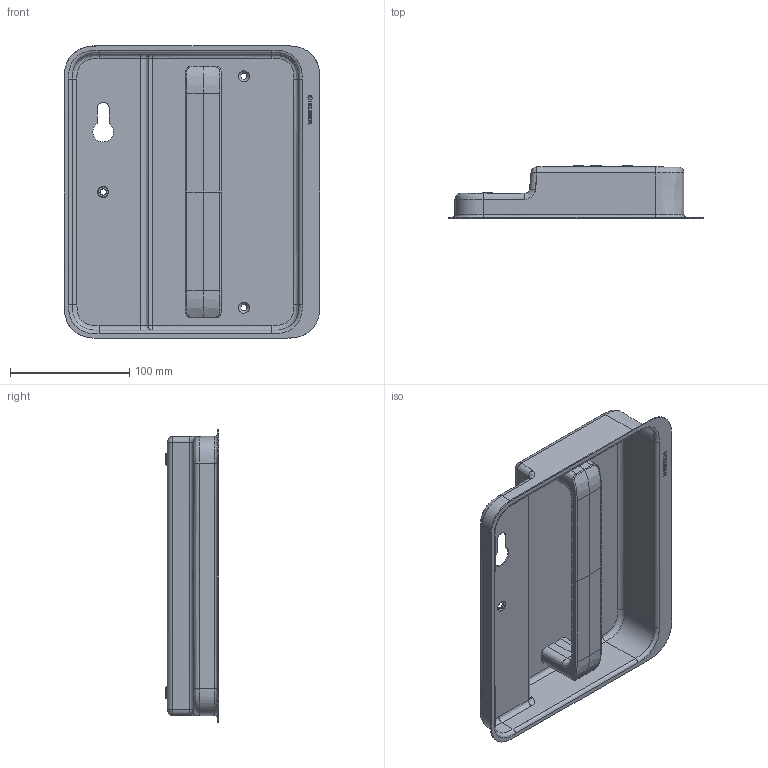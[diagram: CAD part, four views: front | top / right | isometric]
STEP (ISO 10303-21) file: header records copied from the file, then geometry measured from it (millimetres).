
FILE_DESCRIPTION(/* description */ (''),/* implementation_level */ '2;1');
FILE_NAME(/* name */ 'C:\ADSK_DMS_WS\Designs\Vorschläge\Loc Schalen\Heusser Muschel\Heusser-Muschel mit D6\Heusser-Muschel S9.42 mit D6\S9.42.D6.378L..stp',/* time_stamp */ '2025-04-14T15:55:22+02:00',/* author */ ('gm'),/* organization */ (''),/* preprocessor_version */ 'ST-DEVELOPER v17.2',/* originating_system */ 'Autodesk Inventor 2019',/* authorisation */ '');
FILE_SCHEMA (('AUTOMOTIVE_DESIGN { 1 0 10303 214 3 1 1 }'));
Length unit declared in the file: millimetre
Products named in the file (4): S9.42.D6.378L.; Schale S9.42.R.D6; D6; M5x10 zu D6
Assembly tree (6 placements, depth 2):
  S9.42.D6.378L.
    Schale S9.42.R.D6
    D6
    M5x10 zu D6  x4
Bounding box: 214 x 44.5 x 245 mm (x, y, z)
Volume: 160620.8 mm3; surface area: 182731 mm2
Topology: 6 solids, 6 shells, 421 faces, 1085 edges, 691 vertices
Faces by surface type: bspline 168, plane 133, cylinder 66, cone 50, torus 4
Full cylindrical faces by diameter (mm): 4.134 x4, 5 x4, 5.5 x4, 9 x4
Entity records: 25029 total; most frequent: CARTESIAN_POINT 17695, ORIENTED_EDGE 1738, DIRECTION 992, EDGE_CURVE 869, VERTEX_POINT 556, LINE 452, VECTOR 452, EDGE_LOOP 377
